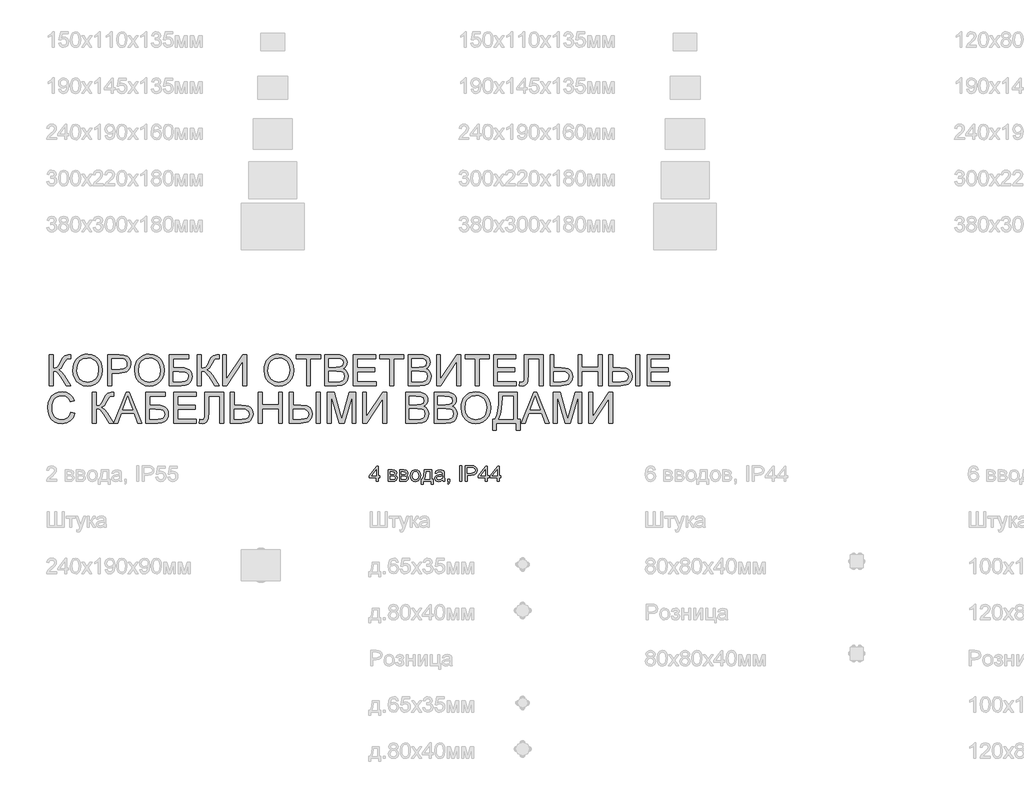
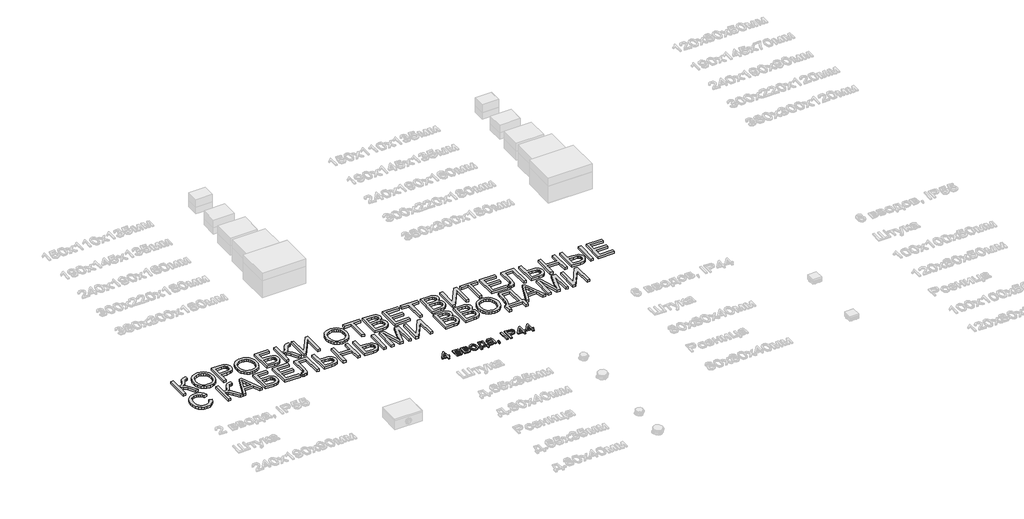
# One storey, part 12 of 98: 2 proxies.
"""IFC4 building model written with IfcOpenShell, lengths in millimetres."""

from ifc_helpers import new_model, si_unit, origin, origin_with_axes, place, context, project, spatial, polyline, outline, extrude, element, save

model = new_model("IFC4")

# Units and contexts
model_context = context("Model", 3, world=origin())
ifc_project = project(units=[si_unit("LENGTHUNIT", "METRE", prefix="MILLI")], contexts=[model_context])

# Site, building, storey
site = spatial("IfcSite", under=ifc_project)
building = spatial("IfcBuilding", under=site)
storey = spatial("IfcBuildingStorey", under=building, Name="Этаж 01", Elevation=0.0)

# Proxies
placement = place(None, origin())
element("IfcBuildingElementProxy", 1, Name="100", ObjectType="100", at=placement, inside=storey, context=model_context, shape_type="SweptSolid", body=[
    extrude(outline(polyline([(2099.6978939, -45159.5121665), (2099.6978939, -45135.9677188), (2054.1786284, -45135.9677188), (2054.1786284, -45123.41068), (2102.8371536, -45060.6254862), (2112.2549327, -45060.6254862), (2112.2549327, -45123.41068), (2124.8119715, -45123.41068), (2124.8119715, -45135.9677188), (2112.2549327, -45135.9677188), (2112.2549327, -45159.5121665), (2099.6978939, -45159.5121665)]), holes=[polyline([(2099.6978939, -45123.41068), (2099.6978939, -45084.6113922), (2069.6296722, -45123.41068), (2099.6978939, -45123.41068)])]), origin_with_axes(), (0.0, 0.0, 1.0), 10.0),
    extrude(outline(polyline([(2178.1793862, -45085.7395637), (2205.8441123, -45085.7395637), (2221.0131132, -45087.4195581), (2229.5479755, -45093.5754502), (2233.1164308, -45104.3053417), (2230.9581898, -45113.024145), (2224.4589412, -45119.2413507), (2232.8957016, -45126.0471676), (2236.2556905, -45137.8807051), (2234.1281063, -45147.4517684), (2229.0697289, -45154.1901403), (2221.0621641, -45158.1816599), (2210.0870179, -45159.5121665), (2178.1793862, -45159.5121665), (2178.1793862, -45085.7395637)]), holes=[polyline([(2190.736425, -45113.9929009), (2203.146311, -45113.9929009), (2213.3856932, -45113.3552388), (2218.3643628, -45110.8045903), (2220.5593921, -45106.1938026), (2216.7088938, -45100.0379106), (2203.5387184, -45098.2966025), (2190.736425, -45098.2966025), (2190.736425, -45113.9929009)]), polyline([(2190.736425, -45146.9551277), (2206.1384179, -45146.9551277), (2219.7991026, -45144.6865221), (2223.6986518, -45136.8506356), (2221.5526734, -45130.8051081), (2215.9608671, -45127.2857037), (2204.9121445, -45126.5499397), (2190.736425, -45126.5499397), (2190.736425, -45146.9551277)])]), origin_with_axes(), (0.0, 0.0, 1.0), 10.0),
    extrude(outline(polyline([(2251.951989, -45085.7395637), (2279.616715, -45085.7395637), (2294.785716, -45087.4195581), (2303.3205782, -45093.5754502), (2306.8890336, -45104.3053417), (2304.7307926, -45113.024145), (2298.231544, -45119.2413507), (2306.6683044, -45126.0471676), (2310.0282933, -45137.8807051), (2307.9007091, -45147.4517684), (2302.8423316, -45154.1901403), (2294.8347669, -45158.1816599), (2283.8596207, -45159.5121665), (2251.951989, -45159.5121665), (2251.951989, -45085.7395637)]), holes=[polyline([(2264.5090278, -45146.9551277), (2279.9110206, -45146.9551277), (2293.5717054, -45144.6865221), (2297.4712545, -45136.8506356), (2295.3252762, -45130.8051081), (2289.7334699, -45127.2857037), (2278.6847473, -45126.5499397), (2264.5090278, -45126.5499397), (2264.5090278, -45146.9551277)]), polyline([(2264.5090278, -45113.9929009), (2276.9189137, -45113.9929009), (2287.1582959, -45113.3552388), (2292.1369656, -45110.8045903), (2294.3319948, -45106.1938026), (2290.4814966, -45100.0379106), (2277.3113212, -45098.2966025), (2264.5090278, -45098.2966025), (2264.5090278, -45113.9929009)])]), origin_with_axes(), (0.0, 0.0, 1.0), 10.0),
    extrude(outline(polyline([(2322.5853321, -45122.6258651), (2325.3015275, -45104.8387706), (2333.4501136, -45092.3369141), (2343.5178176, -45086.2116789), (2355.5720843, -45084.1699338), (2368.7637195, -45086.656203), (2379.300473, -45094.1150104), (2386.2074574, -45105.957745), (2388.5097856, -45121.5957955), (2384.4385582, -45143.9384953), (2372.5804952, -45156.5813732), (2355.5720843, -45161.0817963), (2342.2210336, -45158.6047242), (2331.6965428, -45151.1735079), (2324.8631347, -45139.082453), (2322.5853321, -45122.6258651)]), holes=[polyline([(2335.1423708, -45122.6013396), (2336.5955047, -45133.9658276), (2340.9549064, -45142.0622972), (2347.5154686, -45146.9091424), (2355.5720843, -45148.5247575), (2363.5919118, -45146.8999454), (2370.1402113, -45142.025509), (2374.4996129, -45133.8217405), (2375.9527468, -45122.2089321), (2374.4904159, -45111.175538), (2370.1034231, -45103.189433), (2363.5459265, -45098.3425877), (2355.5720843, -45096.7269726), (2347.5154686, -45098.3364563), (2340.9549064, -45103.1649075), (2336.5955047, -45111.242983), (2335.1423708, -45122.6013396)])]), origin_with_axes(), (0.0, 0.0, 1.0), 10.0),
    extrude(outline(polyline([(2413.6238631, -45085.7395637), (2460.7127585, -45085.7395637), (2460.7127585, -45146.9551277), (2470.1305376, -45146.9551277), (2470.1305376, -45179.9173545), (2457.5734988, -45179.9173545), (2457.5734988, -45159.5121665), (2405.7757139, -45159.5121665), (2405.7757139, -45179.9173545), (2393.2186751, -45179.9173545), (2393.2186751, -45146.9551277), (2401.0668244, -45146.9551277), (2410.7666463, -45123.0060098), (2413.6238631, -45085.7395637)]), holes=[polyline([(2424.6112721, -45098.2966025), (2421.6682161, -45126.905559), (2415.193493, -45146.9551277), (2448.1557197, -45146.9551277), (2448.1557197, -45098.2966025), (2424.6112721, -45098.2966025)])]), origin_with_axes(), (0.0, 0.0, 1.0), 10.0),
    extrude(outline(polyline([(2531.3461016, -45150.0943874), (2519.1692075, -45158.6047242), (2505.7169893, -45161.0817963), (2495.2231553, -45159.5918742), (2487.482305, -45155.122108), (2482.7090361, -45148.3346852), (2481.1179465, -45139.8917934), (2483.5214422, -45129.9589795), (2489.8367498, -45122.7484924), (2498.6291295, -45118.6282141), (2509.4939111, -45116.7397532), (2531.2725252, -45112.4232711), (2531.3461016, -45109.6273679), (2527.8880108, -45100.3567416), (2514.0065969, -45096.7269726), (2501.3024053, -45099.142731), (2495.2446151, -45107.7143815), (2482.6875764, -45106.1447517), (2488.1199672, -45093.8820185), (2499.0583251, -45086.6960569), (2515.6252777, -45084.1699338), (2530.8433295, -45086.4017513), (2539.4395055, -45092.0058203), (2543.2900037, -45100.5284199), (2543.9031404, -45111.5158288), (2543.9031404, -45127.1385509), (2544.5408025, -45148.9539532), (2547.0424, -45159.5121665), (2534.4853613, -45159.5121665), (2531.3461016, -45150.0943874)]), holes=[polyline([(2531.3461016, -45124.9803098), (2511.0880664, -45128.8308081), (2500.2845985, -45130.8664218), (2495.3917679, -45134.1773597), (2493.6749853, -45139.0088766), (2497.4151189, -45145.8024308), (2508.3902651, -45148.5247575), (2521.0944567, -45145.5203879), (2529.2859624, -45138.2485871), (2531.2725252, -45128.5365025), (2531.3461016, -45124.9803098)])]), origin_with_axes(), (0.0, 0.0, 1.0), 10.0),
    extrude(outline(polyline([(2564.3083284, -45159.5121665), (2564.3083284, -45146.9551277), (2576.8653671, -45146.9551277), (2576.8653671, -45159.5121665), (2574.6090242, -45172.3512481), (2567.447588, -45179.9173545), (2564.3083284, -45175.2084649), (2568.919116, -45169.7883369), (2570.5623223, -45159.5121665), (2564.3083284, -45159.5121665)])), origin_with_axes(), (0.0, 0.0, 1.0), 10.0),
    extrude(outline(polyline([(2642.7898207, -45159.5121665), (2642.7898207, -45059.0558563), (2655.3468594, -45059.0558563), (2655.3468594, -45159.5121665), (2642.7898207, -45159.5121665)])), origin_with_axes(), (0.0, 0.0, 1.0), 10.0),
    extrude(outline(polyline([(2680.460937, -45159.5121665), (2680.460937, -45059.0558563), (2717.6905949, -45059.0558563), (2732.7001803, -45060.0123495), (2744.9015998, -45064.7089763), (2752.8110627, -45074.421061), (2755.8031696, -45088.1185339), (2753.7828843, -45099.9582028), (2747.7220284, -45109.8235716), (2736.3881973, -45116.4822358), (2718.5489862, -45118.7017905), (2693.0179757, -45118.7017905), (2693.0179757, -45159.5121665), (2680.460937, -45159.5121665)]), holes=[polyline([(2693.0179757, -45106.1447517), (2719.2847502, -45106.1447517), (2737.7769518, -45101.533964), (2741.8788361, -45095.9850773), (2743.2461308, -45088.5599923), (2740.021032, -45078.1611946), (2731.5474834, -45072.4712864), (2718.9904446, -45071.6128951), (2693.0179757, -45071.6128951), (2693.0179757, -45106.1447517)])]), origin_with_axes(), (0.0, 0.0, 1.0), 10.0),
    extrude(outline(polyline([(2809.1705843, -45159.5121665), (2809.1705843, -45135.9677188), (2763.6513188, -45135.9677188), (2763.6513188, -45123.41068), (2812.309844, -45060.6254862), (2821.7276231, -45060.6254862), (2821.7276231, -45123.41068), (2834.2846619, -45123.41068), (2834.2846619, -45135.9677188), (2821.7276231, -45135.9677188), (2821.7276231, -45159.5121665), (2809.1705843, -45159.5121665)]), holes=[polyline([(2809.1705843, -45123.41068), (2809.1705843, -45084.6113922), (2779.1023626, -45123.41068), (2809.1705843, -45123.41068)])]), origin_with_axes(), (0.0, 0.0, 1.0), 10.0),
    extrude(outline(polyline([(2886.0824468, -45159.5121665), (2886.0824468, -45135.9677188), (2840.5631813, -45135.9677188), (2840.5631813, -45123.41068), (2889.2217065, -45060.6254862), (2898.6394856, -45060.6254862), (2898.6394856, -45123.41068), (2911.1965243, -45123.41068), (2911.1965243, -45135.9677188), (2898.6394856, -45135.9677188), (2898.6394856, -45159.5121665), (2886.0824468, -45159.5121665)]), holes=[polyline([(2886.0824468, -45123.41068), (2886.0824468, -45084.6113922), (2856.0142251, -45123.41068), (2886.0824468, -45123.41068)])]), origin_with_axes(), (0.0, 0.0, 1.0), 10.0),
])
element("IfcBuildingElementProxy", 2, Name="200", ObjectType="200", at=placement, inside=storey, context=model_context, shape_type="SweptSolid", body=[
    extrude(outline(polyline([(-25.4161836, -44336.6247283), (-0.3021061, -44336.6247283), (-0.3021061, -44424.5239997), (16.7001735, -44422.8623994), (27.7795529, -44417.8775983), (36.7374795, -44406.148294), (47.3754005, -44384.253184), (61.232289, -44356.171525), (76.9285874, -44342.2655856), (99.3693891, -44336.6247283), (115.8505025, -44336.9190339), (115.8505025, -44362.0331114), (110.3077471, -44361.8859586), (104.7649917, -44361.7388059), (93.262548, -44363.247122), (85.1446187, -44367.7720706), (70.2331351, -44393.6219121), (52.452172, -44425.1126109), (35.1126673, -44435.5114086), (54.5000485, -44446.8666995), (73.6176495, -44470.5337746), (115.8505025, -44537.5373486), (86.7142485, -44537.5373486), (51.0051695, -44480.9325723), (25.8665665, -44451.3793853), (14.2598896, -44445.3645147), (-0.3021061, -44443.3595578), (-0.3021061, -44537.5373486), (-25.4161836, -44537.5373486), (-25.4161836, -44336.6247283)])), origin_with_axes(), (0.0, 0.0, 1.0), 20.0),
    extrude(outline(polyline([(128.4075413, -44439.7297888), (130.0814044, -44416.1638814), (135.1029936, -44395.3019065), (143.472309, -44377.1438644), (155.1893505, -44361.6897549), (169.5520768, -44349.3503797), (185.8584462, -44340.5365402), (204.1084588, -44335.2482365), (224.3021147, -44333.4854686), (250.6547283, -44336.7964066), (274.2850151, -44346.7292204), (293.9053882, -44362.5849344), (308.2282605, -44383.6645728), (316.983852, -44408.9503286), (319.9023825, -44437.424395), (316.8305679, -44466.2786061), (307.6151239, -44491.9199812), (292.764954, -44513.0364077), (272.7889617, -44528.3157733), (249.3610099, -44537.5863995), (224.1549619, -44540.6766083), (197.3976781, -44537.2614371), (173.6325012, -44527.0159236), (154.0611791, -44510.865904), (139.8854595, -44489.7372147), (131.2770209, -44465.4263462), (128.4075413, -44439.7297888)]), holes=[polyline([(153.5216188, -44439.9750435), (158.5432081, -44471.4044286), (173.6079758, -44495.3535465), (196.2511126, -44510.5102847), (224.0078091, -44515.5625308), (252.1691758, -44510.4612338), (274.8491008, -44495.1573428), (283.5725026, -44483.8848253), (289.8035039, -44470.4724609), (294.788305, -44437.2281913), (292.6545894, -44414.995856), (286.2534427, -44395.7801531), (275.7504117, -44380.0654606), (261.3110434, -44368.3361563), (243.8918309, -44361.0336987), (224.4492675, -44358.5995462), (197.4344663, -44363.2900416), (174.4663671, -44377.3615279), (165.3030397, -44388.3106158), (158.7578059, -44402.3958977), (153.5216188, -44439.9750435)])]), origin_with_axes(), (0.0, 0.0, 1.0), 20.0),
    extrude(outline(polyline([(354.4342391, -44537.5373486), (354.4342391, -44336.6247283), (428.893555, -44336.6247283), (458.9127258, -44338.5377147), (483.3155648, -44347.9309683), (492.1876522, -44356.2573641), (499.1344906, -44367.3551376), (503.6226509, -44380.4456053), (505.1187044, -44394.7500836), (501.0781338, -44418.4294213), (488.956422, -44438.160159), (479.2489359, -44445.9286004), (466.2887598, -44451.4774872), (430.6103376, -44455.9165966), (379.5483167, -44455.9165966), (379.5483167, -44537.5373486), (354.4342391, -44537.5373486)]), holes=[polyline([(379.5483167, -44430.8025191), (432.0818656, -44430.8025191), (454.350989, -44428.4971252), (469.0662688, -44421.5809437), (477.2700373, -44410.4831702), (480.0046268, -44395.6330003), (478.3920774, -44384.3512858), (473.5544292, -44374.8354049), (466.092556, -44367.6739687), (456.6073319, -44363.4555885), (431.4932544, -44361.7388059), (379.5483167, -44361.7388059), (379.5483167, -44430.8025191)])]), origin_with_axes(), (0.0, 0.0, 1.0), 20.0),
    extrude(outline(polyline([(530.2327819, -44439.7297888), (531.906645, -44416.1638814), (536.9282342, -44395.3019065), (545.2975496, -44377.1438644), (557.0145911, -44361.6897549), (571.3773174, -44349.3503797), (587.6836868, -44340.5365402), (605.9336994, -44335.2482365), (626.1273553, -44333.4854686), (652.4799689, -44336.7964066), (676.1102557, -44346.7292204), (695.7306288, -44362.5849344), (710.0535011, -44383.6645728), (718.8090926, -44408.9503286), (721.7276231, -44437.424395), (718.6558085, -44466.2786061), (709.4403645, -44491.9199812), (694.5901946, -44513.0364077), (674.6142023, -44528.3157733), (651.1862505, -44537.5863995), (625.9802025, -44540.6766083), (599.2229187, -44537.2614371), (575.4577418, -44527.0159236), (555.8864197, -44510.865904), (541.7107001, -44489.7372147), (533.1022615, -44465.4263462), (530.2327819, -44439.7297888)]), holes=[polyline([(555.3468594, -44439.9750435), (560.3684487, -44471.4044286), (575.4332164, -44495.3535465), (598.0763532, -44510.5102847), (625.8330497, -44515.5625308), (653.9944164, -44510.4612338), (676.6743414, -44495.1573428), (685.3977432, -44483.8848253), (691.6287445, -44470.4724609), (696.6135456, -44437.2281913), (694.47983, -44414.995856), (688.0786833, -44395.7801531), (677.5756523, -44380.0654606), (663.136284, -44368.3361563), (645.7170715, -44361.0336987), (626.2745081, -44358.5995462), (599.2597069, -44363.2900416), (576.2916077, -44377.3615279), (567.1282803, -44388.3106158), (560.5830465, -44402.3958977), (555.3468594, -44439.9750435)])]), origin_with_axes(), (0.0, 0.0, 1.0), 20.0),
    extrude(outline(polyline([(756.2594797, -44336.6247283), (881.8298674, -44336.6247283), (881.8298674, -44361.7388059), (781.3735573, -44361.7388059), (781.3735573, -44421.38474), (828.4134017, -44421.38474), (851.7984339, -44422.6600643), (869.8614398, -44426.486037), (883.7305911, -44433.8559396), (894.534059, -44445.7630535), (901.4870287, -44461.09147), (903.8046853, -44478.7252803), (902.1553476, -44493.5325306), (897.2073348, -44507.3464995), (888.9851722, -44519.4436858), (877.5133853, -44529.1005882), (859.8182614, -44535.4281585), (832.9260875, -44537.5373486), (756.2594797, -44537.5373486), (756.2594797, -44336.6247283)]), holes=[polyline([(781.3735573, -44512.4232711), (835.1824304, -44512.4232711), (854.2019296, -44510.3508692), (867.8013007, -44504.1336635), (875.968281, -44493.7716539), (878.6906077, -44479.2648406), (877.1332406, -44468.4613727), (872.4611393, -44459.5954166), (865.0115289, -44453.0225916), (855.1216346, -44449.098517), (817.27884, -44446.4988175), (781.3735573, -44446.4988175), (781.3735573, -44512.4232711)])]), origin_with_axes(), (0.0, 0.0, 1.0), 20.0),
    extrude(outline(polyline([(938.3365419, -44336.6247283), (963.4506194, -44336.6247283), (963.4506194, -44424.5239997), (980.452899, -44422.8623994), (991.5322784, -44417.8775983), (1000.490205, -44406.148294), (1011.128126, -44384.253184), (1024.9850145, -44356.171525), (1040.6813129, -44342.2655856), (1063.1221146, -44336.6247283), (1079.603228, -44336.9190339), (1079.603228, -44362.0331114), (1074.0604726, -44361.8859586), (1068.5177172, -44361.7388059), (1057.0152735, -44363.247122), (1048.8973442, -44367.7720706), (1033.9858606, -44393.6219121), (1016.2048975, -44425.1126109), (998.8653928, -44435.5114086), (1018.252774, -44446.8666995), (1037.370375, -44470.5337746), (1079.603228, -44537.5373486), (1050.466974, -44537.5373486), (1014.757895, -44480.9325723), (989.619292, -44451.3793853), (978.0126151, -44445.3645147), (963.4506194, -44443.3595578), (963.4506194, -44537.5373486), (938.3365419, -44537.5373486), (938.3365419, -44336.6247283)])), origin_with_axes(), (0.0, 0.0, 1.0), 20.0),
    extrude(outline(polyline([(1101.5780459, -44336.6247283), (1126.6921234, -44336.6247283), (1126.6921234, -44495.745954), (1231.8573231, -44336.6247283), (1258.5410305, -44336.6247283), (1258.5410305, -44537.5373486), (1233.4269529, -44537.5373486), (1233.4269529, -44378.8575814), (1128.5070079, -44537.5373486), (1101.5780459, -44537.5373486), (1101.5780459, -44336.6247283)])), origin_with_axes(), (0.0, 0.0, 1.0), 20.0),
    extrude(outline(polyline([(1371.5543794, -44439.7297888), (1373.2282425, -44416.1638814), (1378.2498317, -44395.3019065), (1386.6191471, -44377.1438644), (1398.3361886, -44361.6897549), (1412.6989149, -44349.3503797), (1429.0052843, -44340.5365402), (1447.255297, -44335.2482365), (1467.4489528, -44333.4854686), (1493.8015664, -44336.7964066), (1517.4318532, -44346.7292204), (1537.0522263, -44362.5849344), (1551.3750986, -44383.6645728), (1560.1306901, -44408.9503286), (1563.0492206, -44437.424395), (1559.977406, -44466.2786061), (1550.761962, -44491.9199812), (1535.9117921, -44513.0364077), (1515.9357998, -44528.3157733), (1492.507848, -44537.5863995), (1467.3018, -44540.6766083), (1440.5445162, -44537.2614371), (1416.7793393, -44527.0159236), (1397.2080172, -44510.865904), (1383.0322976, -44489.7372147), (1374.423859, -44465.4263462), (1371.5543794, -44439.7297888)]), holes=[polyline([(1396.6684569, -44439.9750435), (1401.6900462, -44471.4044286), (1416.7548139, -44495.3535465), (1439.3979507, -44510.5102847), (1467.1546472, -44515.5625308), (1495.3160139, -44510.4612338), (1517.9959389, -44495.1573428), (1526.7193408, -44483.8848253), (1532.950342, -44470.4724609), (1537.9351431, -44437.2281913), (1535.8014275, -44414.995856), (1529.4002808, -44395.7801531), (1518.8972498, -44380.0654606), (1504.4578815, -44368.3361563), (1487.038669, -44361.0336987), (1467.5961056, -44358.5995462), (1440.5813044, -44363.2900416), (1417.6132052, -44377.3615279), (1408.4498778, -44388.3106158), (1401.904644, -44402.3958977), (1396.6684569, -44439.9750435)])]), origin_with_axes(), (0.0, 0.0, 1.0), 20.0),
    extrude(outline(polyline([(1647.8092323, -44537.5373486), (1647.8092323, -44361.7388059), (1581.8847788, -44361.7388059), (1581.8847788, -44336.6247283), (1738.8477634, -44336.6247283), (1738.8477634, -44361.7388059), (1672.9233098, -44361.7388059), (1672.9233098, -44537.5373486), (1647.8092323, -44537.5373486)])), origin_with_axes(), (0.0, 0.0, 1.0), 20.0),
    extrude(outline(polyline([(1767.1011006, -44537.5373486), (1767.1011006, -44336.6247283), (1843.7677084, -44336.6247283), (1864.8534781, -44338.1023877), (1881.3161974, -44342.5353657), (1893.9345498, -44350.034027), (1903.487219, -44360.7087363), (1909.5020896, -44373.265775), (1911.5070464, -44386.411425), (1909.8209206, -44398.5086113), (1904.7625432, -44409.8822963), (1896.2951259, -44419.8335043), (1884.3818807, -44427.6632594), (1898.6127825, -44435.0944757), (1909.1280762, -44446.4007157), (1915.6211934, -44460.8339526), (1917.7855658, -44477.6461598), (1911.8749284, -44504.6486982), (1897.233225, -44523.8766639), (1875.3810345, -44534.0792579), (1843.1790972, -44537.5373486), (1767.1011006, -44537.5373486)]), holes=[polyline([(1792.2151781, -44512.4232711), (1843.7186575, -44512.4232711), (1862.3580119, -44511.4422524), (1878.1278868, -44505.9730734), (1888.5757354, -44494.8139862), (1892.6714883, -44477.8914145), (1887.8644969, -44458.3691433), (1881.5675834, -44451.3119403), (1872.2908258, -44446.7195467), (1841.2661108, -44443.3595578), (1792.2151781, -44443.3595578), (1792.2151781, -44512.4232711)]), polyline([(1792.2151781, -44418.2454803), (1838.0778002, -44418.2454803), (1864.8596095, -44416.0872393), (1880.9728408, -44406.7920875), (1886.3929689, -44390.4336015), (1881.3407228, -44374.05059), (1866.8706977, -44364.3630308), (1834.595184, -44361.7388059), (1792.2151781, -44361.7388059), (1792.2151781, -44418.2454803)])]), origin_with_axes(), (0.0, 0.0, 1.0), 20.0),
    extrude(outline(polyline([(1952.3174224, -44537.5373486), (1952.3174224, -44336.6247283), (2096.7233683, -44336.6247283), (2096.7233683, -44361.7388059), (1977.4315, -44361.7388059), (1977.4315, -44421.38474), (2090.4448489, -44421.38474), (2090.4448489, -44446.4988175), (1977.4315, -44446.4988175), (1977.4315, -44512.4232711), (2099.862628, -44512.4232711), (2099.862628, -44537.5373486), (1952.3174224, -44537.5373486)])), origin_with_axes(), (0.0, 0.0, 1.0), 20.0),
    extrude(outline(polyline([(2187.7618994, -44537.5373486), (2187.7618994, -44361.7388059), (2121.8374458, -44361.7388059), (2121.8374458, -44336.6247283), (2278.8004304, -44336.6247283), (2278.8004304, -44361.7388059), (2212.8759769, -44361.7388059), (2212.8759769, -44537.5373486), (2187.7618994, -44537.5373486)])), origin_with_axes(), (0.0, 0.0, 1.0), 20.0),
    extrude(outline(polyline([(2307.0537677, -44537.5373486), (2307.0537677, -44336.6247283), (2383.7203755, -44336.6247283), (2404.8061451, -44338.1023877), (2421.2688644, -44342.5353657), (2433.8872169, -44350.034027), (2443.439886, -44360.7087363), (2449.4547566, -44373.265775), (2451.4597135, -44386.411425), (2449.7735877, -44398.5086113), (2444.7152103, -44409.8822963), (2436.247793, -44419.8335043), (2424.3345477, -44427.6632594), (2438.5654496, -44435.0944757), (2449.0807433, -44446.4007157), (2455.5738605, -44460.8339526), (2457.7382329, -44477.6461598), (2451.8275955, -44504.6486982), (2437.1858921, -44523.8766639), (2415.3337016, -44534.0792579), (2383.1317643, -44537.5373486), (2307.0537677, -44537.5373486)]), holes=[polyline([(2332.1678452, -44512.4232711), (2383.6713245, -44512.4232711), (2402.3106789, -44511.4422524), (2418.0805538, -44505.9730734), (2428.5284025, -44494.8139862), (2432.6241553, -44477.8914145), (2427.8171639, -44458.3691433), (2421.5202505, -44451.3119403), (2412.2434928, -44446.7195467), (2381.2187779, -44443.3595578), (2332.1678452, -44443.3595578), (2332.1678452, -44512.4232711)]), polyline([(2332.1678452, -44418.2454803), (2378.0304673, -44418.2454803), (2404.8122765, -44416.0872393), (2420.9255079, -44406.7920875), (2426.345636, -44390.4336015), (2421.2933899, -44374.05059), (2406.8233648, -44364.3630308), (2374.547851, -44361.7388059), (2332.1678452, -44361.7388059), (2332.1678452, -44418.2454803)])]), origin_with_axes(), (0.0, 0.0, 1.0), 20.0),
    extrude(outline(polyline([(2492.2700895, -44336.6247283), (2517.384167, -44336.6247283), (2517.384167, -44495.745954), (2622.5493667, -44336.6247283), (2649.2330741, -44336.6247283), (2649.2330741, -44537.5373486), (2624.1189966, -44537.5373486), (2624.1189966, -44378.8575814), (2519.1990515, -44537.5373486), (2492.2700895, -44537.5373486), (2492.2700895, -44336.6247283)])), origin_with_axes(), (0.0, 0.0, 1.0), 20.0),
    extrude(outline(polyline([(2743.4108649, -44537.5373486), (2743.4108649, -44361.7388059), (2677.4864113, -44361.7388059), (2677.4864113, -44336.6247283), (2834.4493959, -44336.6247283), (2834.4493959, -44361.7388059), (2768.5249424, -44361.7388059), (2768.5249424, -44537.5373486), (2743.4108649, -44537.5373486)])), origin_with_axes(), (0.0, 0.0, 1.0), 20.0),
    extrude(outline(polyline([(2862.7027332, -44537.5373486), (2862.7027332, -44336.6247283), (3007.108679, -44336.6247283), (3007.108679, -44361.7388059), (2887.8168107, -44361.7388059), (2887.8168107, -44421.38474), (3000.8301596, -44421.38474), (3000.8301596, -44446.4988175), (2887.8168107, -44446.4988175), (2887.8168107, -44512.4232711), (3010.2479387, -44512.4232711), (3010.2479387, -44537.5373486), (2862.7027332, -44537.5373486)])), origin_with_axes(), (0.0, 0.0, 1.0), 20.0),
    extrude(outline(polyline([(3063.6153535, -44336.6247283), (3186.0464815, -44336.6247283), (3186.0464815, -44537.5373486), (3160.9324039, -44537.5373486), (3160.9324039, -44361.7388059), (3088.729431, -44361.7388059), (3088.729431, -44464.2552552), (3085.8109005, -44509.9952499), (3081.2920833, -44522.9201707), (3073.5726928, -44532.6077299), (3063.0022168, -44538.6593887), (3049.9301433, -44540.6766083), (3029.0834969, -44537.5373486), (3032.2227566, -44512.4232711), (3044.2402351, -44515.5625308), (3052.7321778, -44513.876405), (3058.7838366, -44508.8180275), (3062.4074743, -44497.5056562), (3063.6153535, -44477.0575486), (3063.6153535, -44336.6247283)])), origin_with_axes(), (0.0, 0.0, 1.0), 20.0),
    extrude(outline(polyline([(3229.9961172, -44336.6247283), (3255.1101947, -44336.6247283), (3255.1101947, -44421.38474), (3302.1500391, -44421.38474), (3330.5321351, -44423.3529087), (3349.8520712, -44429.2574147), (3362.5562628, -44438.5525664), (3371.091125, -44450.6926723), (3375.9287733, -44464.4575903), (3377.5413227, -44478.6271785), (3373.666299, -44500.6755727), (3362.041228, -44519.8299619), (3352.6234489, -44527.5769436), (3339.8702064, -44533.1105019), (3304.3573311, -44537.5373486), (3229.9961172, -44537.5373486), (3229.9961172, -44336.6247283)]), holes=[polyline([(3255.1101947, -44512.4232711), (3304.3082802, -44512.4232711), (3329.0544757, -44509.9400676), (3343.3528226, -44502.4904572), (3350.1586395, -44491.5337051), (3352.4272452, -44478.5290766), (3350.7840389, -44467.9953888), (3345.8544202, -44459.1539582), (3338.1840806, -44452.5750018), (3328.3187117, -44448.8287368), (3291.1626302, -44446.4988175), (3255.1101947, -44446.4988175), (3255.1101947, -44512.4232711)])]), origin_with_axes(), (0.0, 0.0, 1.0), 20.0),
    extrude(outline(polyline([(3412.0731793, -44537.5373486), (3412.0731793, -44336.6247283), (3437.1872568, -44336.6247283), (3437.1872568, -44418.2454803), (3543.9220864, -44418.2454803), (3543.9220864, -44336.6247283), (3569.0361639, -44336.6247283), (3569.0361639, -44537.5373486), (3543.9220864, -44537.5373486), (3543.9220864, -44443.3595578), (3437.1872568, -44443.3595578), (3437.1872568, -44537.5373486), (3412.0731793, -44537.5373486)])), origin_with_axes(), (0.0, 0.0, 1.0), 20.0),
    extrude(outline(polyline([(3788.7843424, -44336.6247283), (3813.8984199, -44336.6247283), (3813.8984199, -44537.5373486), (3788.7843424, -44537.5373486), (3788.7843424, -44336.6247283)])), origin_with_axes(), (0.0, 0.0, 1.0), 20.0),
    extrude(outline(polyline([(3612.9857996, -44336.6247283), (3638.0998771, -44336.6247283), (3638.0998771, -44421.38474), (3686.3659949, -44421.38474), (3725.6435293, -44425.7747985), (3739.2030465, -44431.2623716), (3748.7097304, -44438.9449739), (3759.9301312, -44457.6824302), (3763.6702648, -44478.7743313), (3759.7155334, -44500.8043314), (3747.851339, -44519.9035383), (3738.2450204, -44527.6183303), (3725.2449904, -44533.128896), (3689.0637962, -44537.5373486), (3612.9857996, -44537.5373486), (3612.9857996, -44336.6247283)]), holes=[polyline([(3638.0998771, -44512.4232711), (3688.8185415, -44512.4232711), (3711.3758392, -44510.4305769), (3726.759438, -44504.4524945), (3735.607, -44494.0843536), (3738.5561873, -44478.921484), (3736.7719596, -44467.9708633), (3731.4192766, -44458.9577544), (3723.2400336, -44452.3726667), (3712.9761259, -44448.7061095), (3675.2314332, -44446.4988175), (3638.0998771, -44446.4988175), (3638.0998771, -44512.4232711)])]), origin_with_axes(), (0.0, 0.0, 1.0), 20.0),
    extrude(outline(polyline([(3860.9873153, -44537.5373486), (3860.9873153, -44336.6247283), (4005.3932611, -44336.6247283), (4005.3932611, -44361.7388059), (3886.1013928, -44361.7388059), (3886.1013928, -44421.38474), (3999.1147417, -44421.38474), (3999.1147417, -44446.4988175), (3886.1013928, -44446.4988175), (3886.1013928, -44512.4232711), (4008.5325208, -44512.4232711), (4008.5325208, -44537.5373486), (3860.9873153, -44537.5373486)])), origin_with_axes(), (0.0, 0.0, 1.0), 20.0),
    extrude(outline(polyline([(115.8505025, -44710.0688263), (140.9645801, -44716.5435494), (129.3762972, -44745.8085621), (111.1906639, -44767.1886374), (87.3028597, -44780.2668424), (58.6080641, -44784.626244), (29.4779414, -44781.3275688), (6.3442953, -44771.4315431), (-11.3876169, -44755.2815235), (-24.3125376, -44733.2208665), (-32.2036064, -44707.2851859), (-34.8339627, -44679.5100952), (-31.8602499, -44650.2144257), (-22.9391115, -44624.9164072), (-8.5365314, -44604.4192487), (10.8815066, -44589.5261592), (33.9109195, -44580.457868), (59.1476243, -44577.4351043), (86.6835917, -44581.3469162), (109.4493558, -44593.0823518), (126.7336782, -44611.91791), (137.8253204, -44637.1300894), (112.7112428, -44643.1143032), (104.0047023, -44624.7999112), (92.1098511, -44612.2367411), (76.8795365, -44604.9710717), (58.1666057, -44602.5491818), (36.596458, -44605.2347204), (18.8768086, -44613.2913361), (5.4307217, -44625.8729003), (-3.3187384, -44642.1332845), (-8.1195985, -44660.5151216), (-9.7198852, -44679.4610443), (-7.8252929, -44702.6621355), (-2.1415161, -44722.7239669), (7.5460431, -44738.8801179), (21.4519826, -44750.3641675), (38.1231683, -44757.2251667), (56.1064665, -44759.5121665), (77.0696089, -44756.3974322), (94.5378723, -44747.0532296), (107.7264418, -44731.5776603), (115.8505025, -44710.0688263)])), origin_with_axes(), (0.0, 0.0, 1.0), 20.0),
    extrude(outline(polyline([(253.977929, -44580.574364), (279.0920065, -44580.574364), (279.0920065, -44668.4736354), (296.0942861, -44666.812035), (307.1736655, -44661.827234), (316.1315921, -44650.0979297), (326.7695131, -44628.2028196), (340.6264016, -44600.1211607), (356.3227, -44586.2152213), (378.7635017, -44580.574364), (395.2446151, -44580.8686696), (395.2446151, -44605.9827471), (389.7018597, -44605.8355943), (384.1591043, -44605.6884415), (372.6566606, -44607.1967577), (364.5387313, -44611.7217063), (349.6272477, -44637.5715478), (331.8462846, -44669.0622466), (314.5067799, -44679.4610443), (333.8941611, -44690.8163352), (353.0117621, -44714.4834102), (395.2446151, -44781.4869843), (366.1083611, -44781.4869843), (330.3992821, -44724.882208), (305.2606791, -44695.329021), (293.6540022, -44689.3141504), (279.0920065, -44687.3091935), (279.0920065, -44781.4869843), (253.977929, -44781.4869843), (253.977929, -44580.574364)])), origin_with_axes(), (0.0, 0.0, 1.0), 20.0),
    extrude(outline(polyline([(393.8221381, -44781.4869843), (474.020413, -44580.574364), (495.4066197, -44580.574364), (575.6048946, -44781.4869843), (549.06834, -44781.4869843), (526.0634526, -44718.7017905), (443.3145292, -44718.7017905), (420.3586927, -44781.4869843), (393.8221381, -44781.4869843)]), holes=[polyline([(452.5361045, -44693.5877129), (516.8909282, -44693.5877129), (498.791134, -44644.1934237), (484.7135164, -44605.6884415), (472.2055285, -44639.8769416), (452.5361045, -44693.5877129)])]), origin_with_axes(), (0.0, 0.0, 1.0), 20.0),
    extrude(outline(polyline([(602.4357548, -44580.574364), (728.0061425, -44580.574364), (728.0061425, -44605.6884415), (627.5498323, -44605.6884415), (627.5498323, -44665.3343757), (674.5896768, -44665.3343757), (697.974709, -44666.6096999), (716.0377149, -44670.4356727), (729.9068661, -44677.8055753), (740.7103341, -44689.7126892), (747.6633038, -44705.0411057), (749.9809603, -44722.674916), (748.3316227, -44737.4821663), (743.3836099, -44751.2961352), (735.1614473, -44763.3933215), (723.6896604, -44773.0502239), (705.9945365, -44779.3777942), (679.1023626, -44781.4869843), (602.4357548, -44781.4869843), (602.4357548, -44580.574364)]), holes=[polyline([(627.5498323, -44756.3729068), (681.3587055, -44756.3729068), (700.3782047, -44754.3005049), (713.9775757, -44748.0832991), (722.144556, -44737.7212896), (724.8668828, -44723.2144763), (723.3095157, -44712.4110083), (718.6374144, -44703.5450523), (711.187804, -44696.9722273), (701.2979096, -44693.0481527), (663.4551151, -44690.4484532), (627.5498323, -44690.4484532), (627.5498323, -44756.3729068)])]), origin_with_axes(), (0.0, 0.0, 1.0), 20.0),
    extrude(outline(polyline([(784.512817, -44781.4869843), (784.512817, -44580.574364), (928.9187628, -44580.574364), (928.9187628, -44605.6884415), (809.6268945, -44605.6884415), (809.6268945, -44665.3343757), (922.6402434, -44665.3343757), (922.6402434, -44690.4484532), (809.6268945, -44690.4484532), (809.6268945, -44756.3729068), (932.0580225, -44756.3729068), (932.0580225, -44781.4869843), (784.512817, -44781.4869843)])), origin_with_axes(), (0.0, 0.0, 1.0), 20.0),
    extrude(outline(polyline([(985.4254373, -44580.574364), (1107.8565653, -44580.574364), (1107.8565653, -44781.4869843), (1082.7424877, -44781.4869843), (1082.7424877, -44605.6884415), (1010.5395148, -44605.6884415), (1010.5395148, -44708.2048909), (1007.6209843, -44753.9448856), (1003.1021671, -44766.8698064), (995.3827766, -44776.5573656), (984.8123006, -44782.6090244), (971.740227, -44784.626244), (950.8935806, -44781.4869843), (954.0328403, -44756.3729068), (966.0503188, -44759.5121665), (974.5422616, -44757.8260406), (980.5939204, -44752.7676632), (984.217558, -44741.4552919), (985.4254373, -44721.0071843), (985.4254373, -44580.574364)])), origin_with_axes(), (0.0, 0.0, 1.0), 20.0),
    extrude(outline(polyline([(1151.8062009, -44580.574364), (1176.9202785, -44580.574364), (1176.9202785, -44665.3343757), (1223.9601229, -44665.3343757), (1252.3422189, -44667.3025444), (1271.662155, -44673.2070504), (1284.3663465, -44682.5022021), (1292.9012088, -44694.642308), (1297.7388571, -44708.407226), (1299.3514065, -44722.5768141), (1295.4763828, -44744.6252084), (1283.8513117, -44763.7795976), (1274.4335327, -44771.5265793), (1261.6802902, -44777.0601376), (1226.1674149, -44781.4869843), (1151.8062009, -44781.4869843), (1151.8062009, -44580.574364)]), holes=[polyline([(1176.9202785, -44756.3729068), (1226.118364, -44756.3729068), (1250.8645595, -44753.8897033), (1265.1629064, -44746.4400929), (1271.9687233, -44735.4833408), (1274.2373289, -44722.4787123), (1272.5941227, -44711.9450245), (1267.664504, -44703.1035939), (1259.9941644, -44696.5246375), (1250.1287955, -44692.7783725), (1212.972714, -44690.4484532), (1176.9202785, -44690.4484532), (1176.9202785, -44756.3729068)])]), origin_with_axes(), (0.0, 0.0, 1.0), 20.0),
    extrude(outline(polyline([(1333.8832631, -44781.4869843), (1333.8832631, -44580.574364), (1358.9973406, -44580.574364), (1358.9973406, -44662.195116), (1465.7321702, -44662.195116), (1465.7321702, -44580.574364), (1490.8462477, -44580.574364), (1490.8462477, -44781.4869843), (1465.7321702, -44781.4869843), (1465.7321702, -44687.3091935), (1358.9973406, -44687.3091935), (1358.9973406, -44781.4869843), (1333.8832631, -44781.4869843)])), origin_with_axes(), (0.0, 0.0, 1.0), 20.0),
    extrude(outline(polyline([(1710.5944261, -44580.574364), (1735.7085037, -44580.574364), (1735.7085037, -44781.4869843), (1710.5944261, -44781.4869843), (1710.5944261, -44580.574364)])), origin_with_axes(), (0.0, 0.0, 1.0), 20.0),
    extrude(outline(polyline([(1534.7958834, -44580.574364), (1559.9099609, -44580.574364), (1559.9099609, -44665.3343757), (1608.1760787, -44665.3343757), (1647.453613, -44669.7244342), (1661.0131302, -44675.2120073), (1670.5198141, -44682.8946096), (1681.740215, -44701.6320659), (1685.4803486, -44722.7239669), (1681.5256172, -44744.7539671), (1669.6614228, -44763.853174), (1660.0551042, -44771.567966), (1647.0550742, -44777.0785317), (1610.87388, -44781.4869843), (1534.7958834, -44781.4869843), (1534.7958834, -44580.574364)]), holes=[polyline([(1559.9099609, -44756.3729068), (1610.6286253, -44756.3729068), (1633.185923, -44754.3802126), (1648.5695218, -44748.4021302), (1657.4170837, -44738.0339893), (1660.3662711, -44722.8711197), (1658.5820434, -44711.920499), (1653.2293604, -44702.9073901), (1645.0501173, -44696.3223024), (1634.7862097, -44692.6557452), (1597.041517, -44690.4484532), (1559.9099609, -44690.4484532), (1559.9099609, -44756.3729068)])]), origin_with_axes(), (0.0, 0.0, 1.0), 20.0),
    extrude(outline(polyline([(1782.7973991, -44781.4869843), (1782.7973991, -44580.574364), (1826.0112708, -44580.574364), (1867.1159524, -44722.1844067), (1875.40556, -44751.7621191), (1884.3818807, -44719.73186), (1924.7998492, -44580.574364), (1968.0137209, -44580.574364), (1968.0137209, -44781.4869843), (1942.8996434, -44781.4869843), (1942.8996434, -44605.6884415), (1892.4262336, -44781.4869843), (1858.3848863, -44781.4869843), (1807.9114766, -44605.6884415), (1807.9114766, -44781.4869843), (1782.7973991, -44781.4869843)])), origin_with_axes(), (0.0, 0.0, 1.0), 20.0),
    extrude(outline(polyline([(2011.9633566, -44580.574364), (2037.0774341, -44580.574364), (2037.0774341, -44739.6955897), (2142.2426338, -44580.574364), (2168.9263412, -44580.574364), (2168.9263412, -44781.4869843), (2143.8122637, -44781.4869843), (2143.8122637, -44622.8072171), (2038.8923186, -44781.4869843), (2011.9633566, -44781.4869843), (2011.9633566, -44580.574364)])), origin_with_axes(), (0.0, 0.0, 1.0), 20.0),
    extrude(outline(polyline([(2291.3574692, -44781.4869843), (2291.3574692, -44580.574364), (2368.024077, -44580.574364), (2389.1098467, -44582.0520234), (2405.572566, -44586.4850014), (2418.1909184, -44593.9836627), (2427.7435875, -44604.658372), (2433.7584582, -44617.2154107), (2435.763415, -44630.3610607), (2434.0772892, -44642.458247), (2429.0189118, -44653.831932), (2420.5514945, -44663.7831399), (2408.6382493, -44671.6128951), (2422.8691511, -44679.0441114), (2433.3844448, -44690.3503514), (2439.877562, -44704.7835883), (2442.0419344, -44721.5957955), (2436.131297, -44748.5983339), (2421.4895936, -44767.8262995), (2399.6374031, -44778.0288935), (2367.4354658, -44781.4869843), (2291.3574692, -44781.4869843)]), holes=[polyline([(2316.4715467, -44756.3729068), (2367.9750261, -44756.3729068), (2386.6143805, -44755.3918881), (2402.3842553, -44749.9227091), (2412.832104, -44738.7636219), (2416.9278569, -44721.8410502), (2412.1208655, -44702.3187789), (2405.823952, -44695.261576), (2396.5471944, -44690.6691824), (2365.5224794, -44687.3091935), (2316.4715467, -44687.3091935), (2316.4715467, -44756.3729068)]), polyline([(2316.4715467, -44662.195116), (2362.3341688, -44662.195116), (2389.1159781, -44660.036875), (2405.2292094, -44650.7417232), (2410.6493375, -44634.3832372), (2405.5970914, -44618.0002256), (2391.1270663, -44608.3126664), (2358.8515526, -44605.6884415), (2316.4715467, -44605.6884415), (2316.4715467, -44662.195116)])]), origin_with_axes(), (0.0, 0.0, 1.0), 20.0),
    extrude(outline(polyline([(2476.573791, -44781.4869843), (2476.573791, -44580.574364), (2553.2403988, -44580.574364), (2574.3261685, -44582.0520234), (2590.7888878, -44586.4850014), (2603.4072402, -44593.9836627), (2612.9599094, -44604.658372), (2618.97478, -44617.2154107), (2620.9797369, -44630.3610607), (2619.2936111, -44642.458247), (2614.2352336, -44653.831932), (2605.7678164, -44663.7831399), (2593.8545711, -44671.6128951), (2608.0854729, -44679.0441114), (2618.6007666, -44690.3503514), (2625.0938839, -44704.7835883), (2627.2582563, -44721.5957955), (2621.3476189, -44748.5983339), (2606.7059155, -44767.8262995), (2584.853725, -44778.0288935), (2552.6517876, -44781.4869843), (2476.573791, -44781.4869843)]), holes=[polyline([(2501.6878686, -44756.3729068), (2553.1913479, -44756.3729068), (2571.8307023, -44755.3918881), (2587.6005772, -44749.9227091), (2598.0484258, -44738.7636219), (2602.1441787, -44721.8410502), (2597.3371873, -44702.3187789), (2591.0402738, -44695.261576), (2581.7635162, -44690.6691824), (2550.7388013, -44687.3091935), (2501.6878686, -44687.3091935), (2501.6878686, -44756.3729068)]), polyline([(2501.6878686, -44662.195116), (2547.5504906, -44662.195116), (2574.3322999, -44660.036875), (2590.4455313, -44650.7417232), (2595.8656593, -44634.3832372), (2590.8134133, -44618.0002256), (2576.3433881, -44608.3126664), (2544.0678744, -44605.6884415), (2501.6878686, -44605.6884415), (2501.6878686, -44662.195116)])]), origin_with_axes(), (0.0, 0.0, 1.0), 20.0),
    extrude(outline(polyline([(2652.3723338, -44683.6794245), (2654.0461969, -44660.113517), (2659.0677861, -44639.2515422), (2667.4371015, -44621.0935001), (2679.1541431, -44605.6393906), (2693.5168693, -44593.3000154), (2709.8232387, -44584.4861759), (2728.0732514, -44579.1978722), (2748.2669072, -44577.4351043), (2774.6195208, -44580.7460423), (2798.2498076, -44590.6788561), (2817.8701807, -44606.5345701), (2832.193053, -44627.6142085), (2840.9486445, -44652.8999643), (2843.867175, -44681.3740307), (2840.7953604, -44710.2282418), (2831.5799164, -44735.8696169), (2816.7297465, -44756.9860434), (2796.7537542, -44772.265409), (2773.3258024, -44781.5360352), (2748.1197544, -44784.626244), (2721.3624706, -44781.2110728), (2697.5972937, -44770.9655592), (2678.0259716, -44754.8155397), (2663.8502521, -44733.6868504), (2655.2418134, -44709.3759819), (2652.3723338, -44683.6794245)]), holes=[polyline([(2677.4864113, -44683.9246792), (2682.5080006, -44715.3540643), (2697.5727683, -44739.3031822), (2720.2159051, -44754.4599204), (2747.9726016, -44759.5121665), (2776.1339683, -44754.4108695), (2798.8138933, -44739.1069785), (2807.5372952, -44727.834461), (2813.7682965, -44714.4220966), (2818.7530975, -44681.177827), (2816.6193819, -44658.9454917), (2810.2182352, -44639.7297888), (2799.7152042, -44624.0150963), (2785.2758359, -44612.285792), (2767.8566235, -44604.9833344), (2748.41406, -44602.5491818), (2721.3992588, -44607.2396773), (2698.4311596, -44621.3111636), (2689.2678322, -44632.2602515), (2682.7225984, -44646.3455334), (2677.4864113, -44683.9246792)])]), origin_with_axes(), (0.0, 0.0, 1.0), 20.0),
    extrude(outline(polyline([(2897.2345898, -44580.574364), (3016.5264581, -44580.574364), (3016.5264581, -44756.3729068), (3035.3620162, -44756.3729068), (3035.3620162, -44828.5758797), (3010.2479387, -44828.5758797), (3010.2479387, -44781.4869843), (2881.5382913, -44781.4869843), (2881.5382913, -44828.5758797), (2856.4242138, -44828.5758797), (2856.4242138, -44756.3729068), (2872.1205123, -44756.3729068), (2883.1079212, -44733.5918142), (2890.9560704, -44701.5462268), (2895.6649599, -44660.2361444), (2897.2345898, -44609.6615671), (2897.2345898, -44580.574364)]), holes=[polyline([(2991.4123806, -44605.6884415), (2922.3486673, -44605.6884415), (2922.3486673, -44615.7929337), (2917.2473703, -44684.6113922), (2909.6935267, -44724.3794359), (2897.2345898, -44756.3729068), (2991.4123806, -44756.3729068), (2991.4123806, -44605.6884415)])]), origin_with_axes(), (0.0, 0.0, 1.0), 20.0),
    extrude(outline(polyline([(3043.3573183, -44781.4869843), (3123.5555932, -44580.574364), (3144.9417999, -44580.574364), (3225.1400748, -44781.4869843), (3198.6035202, -44781.4869843), (3175.5986328, -44718.7017905), (3092.8497094, -44718.7017905), (3069.8938729, -44781.4869843), (3043.3573183, -44781.4869843)]), holes=[polyline([(3102.0712847, -44693.5877129), (3166.4261084, -44693.5877129), (3148.3263142, -44644.1934237), (3134.2486966, -44605.6884415), (3121.7407087, -44639.8769416), (3102.0712847, -44693.5877129)])]), origin_with_axes(), (0.0, 0.0, 1.0), 20.0),
    extrude(outline(polyline([(3251.970935, -44781.4869843), (3251.970935, -44580.574364), (3295.1848067, -44580.574364), (3336.2894883, -44722.1844067), (3344.5790959, -44751.7621191), (3353.5554166, -44719.73186), (3393.9733851, -44580.574364), (3437.1872568, -44580.574364), (3437.1872568, -44781.4869843), (3412.0731793, -44781.4869843), (3412.0731793, -44605.6884415), (3361.5997696, -44781.4869843), (3327.5584223, -44781.4869843), (3277.0850125, -44605.6884415), (3277.0850125, -44781.4869843), (3251.970935, -44781.4869843)])), origin_with_axes(), (0.0, 0.0, 1.0), 20.0),
    extrude(outline(polyline([(3481.1368925, -44580.574364), (3506.2509701, -44580.574364), (3506.2509701, -44739.6955897), (3611.4161698, -44580.574364), (3638.0998771, -44580.574364), (3638.0998771, -44781.4869843), (3612.9857996, -44781.4869843), (3612.9857996, -44622.8072171), (3508.0658546, -44781.4869843), (3481.1368925, -44781.4869843), (3481.1368925, -44580.574364)])), origin_with_axes(), (0.0, 0.0, 1.0), 20.0),
])

save(model, "model.ifc")
